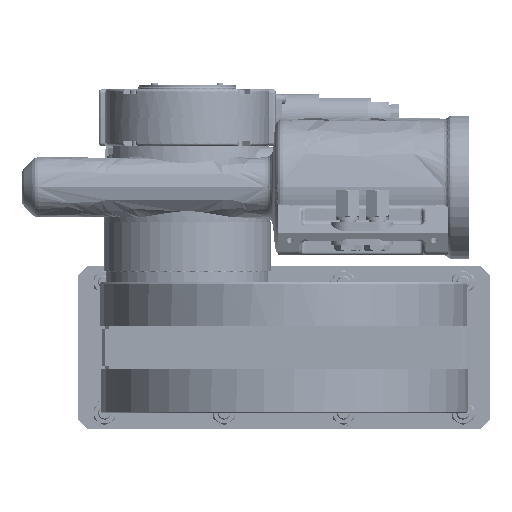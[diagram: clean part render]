
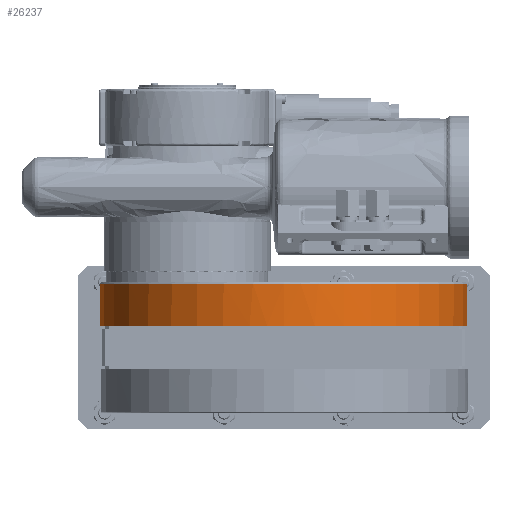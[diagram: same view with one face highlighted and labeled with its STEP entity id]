
A CAD part, front view. The second image highlights one B-rep face of the part: STEP entity #26237.
In plain terms, the highlighted free-form (B-spline) face has degree [2, 1] with [7, 2] control points.
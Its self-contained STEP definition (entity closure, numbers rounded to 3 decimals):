
#26162=CARTESIAN_POINT('V8',(112.4,0.,0.0)
   );
#26163=VERTEX_POINT('V8',#26162);
#26164=CARTESIAN_POINT('E12',(112.4,0.,0.0)
   );
#26165=CARTESIAN_POINT('E12',(112.4,0.,
   -194.683));
#26166=CARTESIAN_POINT('E12',(-56.2,0.,
   -97.341));
#26167=CARTESIAN_POINT('E12',(-224.8,0.,
   0.));
#26168=CARTESIAN_POINT('E12',(-56.2,0.,
   97.341));
#26169=CARTESIAN_POINT('E12',(112.4,0.,
   194.683));
#26170=CARTESIAN_POINT('E12',(112.4,0.,0.0)
   );
#26178=(BOUNDED_CURVE()B_SPLINE_CURVE(2,(#26164,#26165,#26166,
   #26167,#26168,#26169,#26170),.CIRCULAR_ARC.,.T.,.U.)
   B_SPLINE_CURVE_WITH_KNOTS((3,2,2,3),(0.0,15.033,
   30.067,45.1),.UNSPECIFIED.)CURVE()
   GEOMETRIC_REPRESENTATION_ITEM()RATIONAL_B_SPLINE_CURVE((1.0,
   0.5,1.0,0.5,1.0,0.5,1.0)
   )REPRESENTATION_ITEM('E12'));
#26179=EDGE_CURVE('E12',#26163,#26163,#26178,.T.);
#26187=CARTESIAN_POINT('F7',(112.4,0.,0.0)
   );
#26188=CARTESIAN_POINT('F7',(112.4,0.,
   -194.683));
#26189=CARTESIAN_POINT('F7',(-56.2,0.,
   -97.341));
#26190=CARTESIAN_POINT('F7',(-224.8,0.,
   0.));
#26191=CARTESIAN_POINT('F7',(-56.2,0.,
   97.341));
#26192=CARTESIAN_POINT('F7',(112.4,0.,
   194.683));
#26193=CARTESIAN_POINT('F7',(112.4,0.,0.0)
   );
#26194=CARTESIAN_POINT('F7',(112.4,25.9,
   0.0));
#26195=CARTESIAN_POINT('F7',(112.4,25.9,
   -194.683));
#26196=CARTESIAN_POINT('F7',(-56.2,25.9,
   -97.341));
#26197=CARTESIAN_POINT('F7',(-224.8,25.9,
   0.));
#26198=CARTESIAN_POINT('F7',(-56.2,25.9,
   97.341));
#26199=CARTESIAN_POINT('F7',(112.4,25.9,
   194.683));
#26200=CARTESIAN_POINT('F7',(112.4,25.9,
   0.0));
#26208=(BOUNDED_SURFACE()B_SPLINE_SURFACE(2,1,((#26187,#26194),(
   #26188,#26195),(#26189,#26196),(#26190,#26197),(#26191,
   #26198),(#26192,#26199),(#26193,#26200)),.CYLINDRICAL_SURF.,
   .T.,.F.,.U.)B_SPLINE_SURFACE_WITH_KNOTS((3,2,2,3),(2,2),(0.0,
   15.033,30.067,45.1),(0.0,
   1.0),.UNSPECIFIED.)GEOMETRIC_REPRESENTATION_ITEM()
   RATIONAL_B_SPLINE_SURFACE(((1.0,1.0),(0.5,
   0.5),(1.0,1.0),(0.5,
   0.5),(1.0,1.0),(0.5,
   0.5),(1.0,1.0)))REPRESENTATION_ITEM('F7')SURFACE()
   );
#26209=CARTESIAN_POINT('V2',(112.4,25.9,
   0.0));
#26210=VERTEX_POINT('V2',#26209);
#26211=CARTESIAN_POINT('E13',(112.4,25.9,
   0.0));
#26212=CARTESIAN_POINT('E13',(112.4,0.,0.0)
   );
#26213=QUASI_UNIFORM_CURVE('E13',1,(#26211,#26212),.POLYLINE_FORM.,
   .F.,.U.);
#26214=EDGE_CURVE('E13',#26210,#26163,#26213,.T.);
#26215=ORIENTED_EDGE('E13',*,*,#26214,.F.);
#26216=CARTESIAN_POINT('E2',(112.4,25.9,
   0.0));
#26217=CARTESIAN_POINT('E2',(112.4,25.9,
   194.683));
#26218=CARTESIAN_POINT('E2',(-56.2,25.9,
   97.341));
#26219=CARTESIAN_POINT('E2',(-224.8,25.9,
   0.));
#26220=CARTESIAN_POINT('E2',(-56.2,25.9,
   -97.341));
#26221=CARTESIAN_POINT('E2',(112.4,25.9,
   -194.683));
#26222=CARTESIAN_POINT('E2',(112.4,25.9,
   0.0));
#26230=(BOUNDED_CURVE()B_SPLINE_CURVE(2,(#26216,#26217,#26218,
   #26219,#26220,#26221,#26222),.CIRCULAR_ARC.,.T.,.U.)
   B_SPLINE_CURVE_WITH_KNOTS((3,2,2,3),(0.0,15.033,
   30.067,45.1),.UNSPECIFIED.)CURVE()
   GEOMETRIC_REPRESENTATION_ITEM()RATIONAL_B_SPLINE_CURVE((1.0,
   0.5,1.0,0.5,1.0,0.5,1.0)
   )REPRESENTATION_ITEM('E2'));
#26231=EDGE_CURVE('E2',#26210,#26210,#26230,.T.);
#26232=ORIENTED_EDGE('E2',*,*,#26231,.F.);
#26233=ORIENTED_EDGE('E13',*,*,#26214,.T.);
#26234=ORIENTED_EDGE('F6',*,*,#26179,.F.);
#26235=EDGE_LOOP('F7',(#26215,#26232,#26233,#26234));
#26236=FACE_OUTER_BOUND('F7',#26235,.F.);
#26237=ADVANCED_FACE('F7',(#26236),#26208,.T.);
